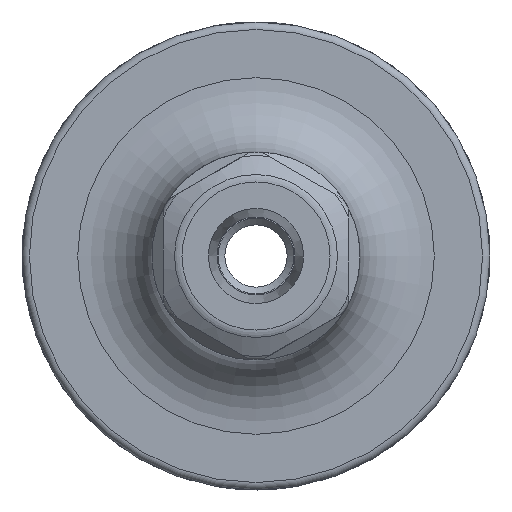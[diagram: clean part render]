
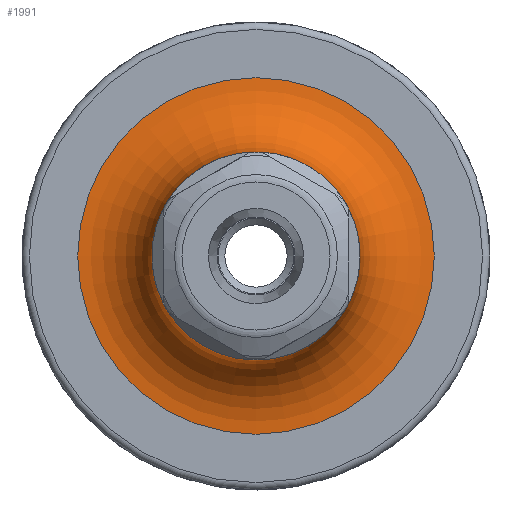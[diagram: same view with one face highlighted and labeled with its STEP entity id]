
A CAD part, front view. The second image highlights one B-rep face of the part: STEP entity #1991.
In plain terms, the highlighted toroidal (fillet/blend) face has major radius 24 mm and minor radius 10 mm.
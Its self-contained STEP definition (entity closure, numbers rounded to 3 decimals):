
#399=FACE_OUTER_BOUND('',#511,.T.);
#511=EDGE_LOOP('',(#1322,#1323,#1324,#1325,#1326,#1327,#1328));
#633=CIRCLE('',#2161,14.);
#634=CIRCLE('',#2162,10.);
#635=CIRCLE('',#2163,24.);
#636=CIRCLE('',#2164,24.);
#637=CIRCLE('',#2165,14.);
#638=CIRCLE('',#2166,14.);
#778=VERTEX_POINT('',#3033);
#779=VERTEX_POINT('',#3034);
#780=VERTEX_POINT('',#3036);
#781=VERTEX_POINT('',#3038);
#782=VERTEX_POINT('',#3041);
#999=EDGE_CURVE('',#778,#779,#633,.T.);
#1000=EDGE_CURVE('',#779,#780,#634,.T.);
#1001=EDGE_CURVE('',#780,#781,#635,.T.);
#1002=EDGE_CURVE('',#781,#780,#636,.T.);
#1003=EDGE_CURVE('',#779,#782,#637,.T.);
#1004=EDGE_CURVE('',#782,#778,#638,.T.);
#1322=ORIENTED_EDGE('',*,*,#999,.T.);
#1323=ORIENTED_EDGE('',*,*,#1000,.T.);
#1324=ORIENTED_EDGE('',*,*,#1001,.T.);
#1325=ORIENTED_EDGE('',*,*,#1002,.T.);
#1326=ORIENTED_EDGE('',*,*,#1000,.F.);
#1327=ORIENTED_EDGE('',*,*,#1003,.T.);
#1328=ORIENTED_EDGE('',*,*,#1004,.T.);
#1968=TOROIDAL_SURFACE('',#2160,24.,10.);
#1991=ADVANCED_FACE('',(#399),#1968,.F.);
#2160=AXIS2_PLACEMENT_3D('',#3032,#2421,#2422);
#2161=AXIS2_PLACEMENT_3D('',#3035,#2423,#2424);
#2162=AXIS2_PLACEMENT_3D('',#3037,#2425,#2426);
#2163=AXIS2_PLACEMENT_3D('',#3039,#2427,#2428);
#2164=AXIS2_PLACEMENT_3D('',#3040,#2429,#2430);
#2165=AXIS2_PLACEMENT_3D('',#3042,#2431,#2432);
#2166=AXIS2_PLACEMENT_3D('',#3043,#2433,#2434);
#2421=DIRECTION('center_axis',(0.,1.,0.));
#2422=DIRECTION('ref_axis',(0.,0.,1.));
#2423=DIRECTION('center_axis',(0.,1.,0.));
#2424=DIRECTION('ref_axis',(-1.,0.,0.));
#2425=DIRECTION('center_axis',(-1.,0.,0.));
#2426=DIRECTION('ref_axis',(0.,0.,-1.));
#2427=DIRECTION('center_axis',(0.,-1.,0.));
#2428=DIRECTION('ref_axis',(-1.,0.,0.));
#2429=DIRECTION('center_axis',(0.,-1.,0.));
#2430=DIRECTION('ref_axis',(-1.,0.,0.));
#2431=DIRECTION('center_axis',(0.,1.,0.));
#2432=DIRECTION('ref_axis',(-1.,0.,0.));
#2433=DIRECTION('center_axis',(0.,1.,0.));
#2434=DIRECTION('ref_axis',(-1.,0.,0.));
#3032=CARTESIAN_POINT('Origin',(0.,-37.,0.));
#3033=CARTESIAN_POINT('',(14.,-37.,0.));
#3034=CARTESIAN_POINT('',(0.,-37.,-14.));
#3035=CARTESIAN_POINT('Origin',(0.,-37.,0.));
#3036=CARTESIAN_POINT('',(0.,-27.,-24.));
#3037=CARTESIAN_POINT('Origin',(0.,-37.,-24.));
#3038=CARTESIAN_POINT('',(24.,-27.,0.));
#3039=CARTESIAN_POINT('Origin',(0.,-27.,0.));
#3040=CARTESIAN_POINT('Origin',(0.,-27.,0.));
#3041=CARTESIAN_POINT('',(-14.,-37.,0.));
#3042=CARTESIAN_POINT('Origin',(0.,-37.,0.));
#3043=CARTESIAN_POINT('Origin',(0.,-37.,0.));
